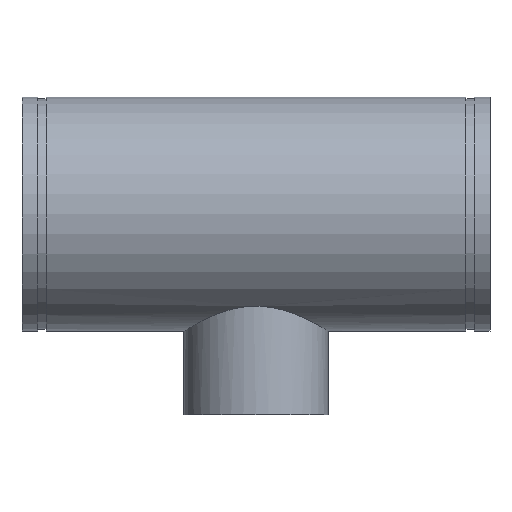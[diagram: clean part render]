
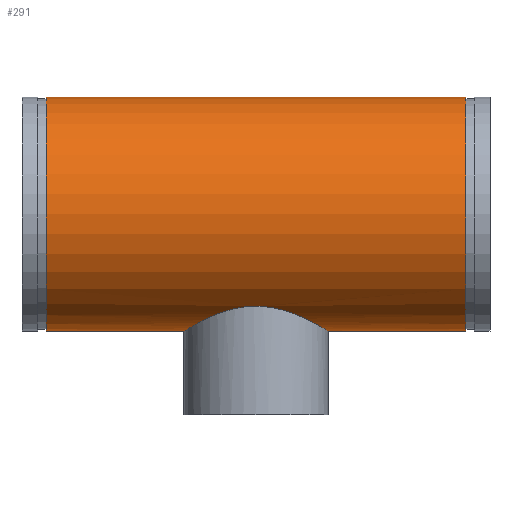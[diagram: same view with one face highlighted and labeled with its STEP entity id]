
A CAD part, top view. The second image highlights one B-rep face of the part: STEP entity #291.
In plain terms, the highlighted cylindrical face has radius 177.8 mm (diameter 355.6 mm), a full revolution.
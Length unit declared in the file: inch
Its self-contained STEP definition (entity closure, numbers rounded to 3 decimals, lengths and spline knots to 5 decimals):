
#45=B_SPLINE_CURVE_WITH_KNOTS('',3,(#511,#512,#513,#514,#515,#516,#517,
#518,#519,#520,#521,#522,#523,#524,#525,#526,#527,#528,#529,#530,#531,#532,
#533,#534,#535,#536,#537,#538,#539,#540,#541,#542,#543,#544,#545,#546,#547,
#548,#549,#550,#551,#552,#553,#554,#555,#556,#557,#558,#559,#560),
 .UNSPECIFIED.,.F.,.F.,(4,2,2,2,2,2,2,2,2,2,2,2,2,2,2,2,2,2,2,2,2,2,2,2,
4),(0.,2.14074,4.28148,6.42221,8.56295,
10.68795,12.81294,14.93794,17.06294,19.18793,
21.31293,23.43792,25.56292,27.70366,29.84439,
31.98513,34.12587,36.26661,38.40735,40.54808,
42.68882,44.81382,46.93881,49.06381,51.18881),
 .UNSPECIFIED.);
#46=B_SPLINE_CURVE_WITH_KNOTS('',3,(#561,#562,#563,#564,#565,#566,#567,
#568,#569,#570,#571,#572,#573,#574,#575,#576,#577,#578),.UNSPECIFIED.,.F.,
 .F.,(4,2,2,2,2,2,2,2,4),(51.18881,53.3138,55.4388,
57.56379,59.68879,61.82953,63.97026,66.111,
68.25174),.UNSPECIFIED.);
#51=LINE('',#508,#59);
#59=VECTOR('',#410,7.);
#67=CYLINDRICAL_SURFACE('',#338,7.);
#77=FACE_BOUND('',#108,.T.);
#88=FACE_OUTER_BOUND('',#107,.T.);
#107=EDGE_LOOP('',(#221,#222,#223,#224));
#108=EDGE_LOOP('',(#225,#226));
#121=CIRCLE('',#321,7.);
#132=CIRCLE('',#337,7.);
#141=VERTEX_POINT('',#476);
#152=VERTEX_POINT('',#505);
#153=VERTEX_POINT('',#509);
#154=VERTEX_POINT('',#510);
#165=EDGE_CURVE('',#141,#141,#121,.T.);
#178=EDGE_CURVE('',#152,#152,#132,.T.);
#179=EDGE_CURVE('',#152,#141,#51,.T.);
#180=EDGE_CURVE('',#153,#154,#45,.T.);
#181=EDGE_CURVE('',#154,#153,#46,.T.);
#221=ORIENTED_EDGE('',*,*,#178,.T.);
#222=ORIENTED_EDGE('',*,*,#179,.T.);
#223=ORIENTED_EDGE('',*,*,#165,.T.);
#224=ORIENTED_EDGE('',*,*,#179,.F.);
#225=ORIENTED_EDGE('',*,*,#180,.F.);
#226=ORIENTED_EDGE('',*,*,#181,.F.);
#291=ADVANCED_FACE('',(#88,#77),#67,.T.);
#321=AXIS2_PLACEMENT_3D('',#477,#372,#373);
#337=AXIS2_PLACEMENT_3D('',#506,#406,#407);
#338=AXIS2_PLACEMENT_3D('',#507,#408,#409);
#372=DIRECTION('center_axis',(-1.,0.,0.));
#373=DIRECTION('ref_axis',(0.,-1.,0.));
#406=DIRECTION('center_axis',(1.,0.,0.));
#407=DIRECTION('ref_axis',(0.,-1.,0.));
#408=DIRECTION('center_axis',(-1.,0.,0.));
#409=DIRECTION('ref_axis',(0.,-1.,0.));
#410=DIRECTION('',(1.,0.,0.));
#476=CARTESIAN_POINT('',(12.562,7.,0.));
#477=CARTESIAN_POINT('Origin',(12.562,0.,0.));
#505=CARTESIAN_POINT('',(-12.562,7.,0.));
#506=CARTESIAN_POINT('Origin',(-12.562,0.,0.));
#507=CARTESIAN_POINT('Origin',(14.,0.,0.));
#508=CARTESIAN_POINT('',(14.,7.,0.));
#509=CARTESIAN_POINT('',(0.,-5.51383,-4.3125));
#510=CARTESIAN_POINT('',(-4.3125,-7.,0.));
#511=CARTESIAN_POINT('Ctrl Pts',(0.,-5.51383,
-4.3125));
#512=CARTESIAN_POINT('Ctrl Pts',(0.28094,-5.51383,-4.3125));
#513=CARTESIAN_POINT('Ctrl Pts',(0.56753,-5.53596,-4.28465));
#514=CARTESIAN_POINT('Ctrl Pts',(1.13119,-5.62177,-4.17141));
#515=CARTESIAN_POINT('Ctrl Pts',(1.40829,-5.68524,-4.0861));
#516=CARTESIAN_POINT('Ctrl Pts',(1.93568,-5.83828,-3.86428));
#517=CARTESIAN_POINT('Ctrl Pts',(2.18652,-5.92776,-3.72759));
#518=CARTESIAN_POINT('Ctrl Pts',(2.6494,-6.11365,-3.41416));
#519=CARTESIAN_POINT('Ctrl Pts',(2.86145,-6.20993,-3.23735));
#520=CARTESIAN_POINT('Ctrl Pts',(3.23597,-6.39118,-2.86283));
#521=CARTESIAN_POINT('Ctrl Pts',(3.41254,-6.48309,-2.6515));
#522=CARTESIAN_POINT('Ctrl Pts',(3.72647,-6.65369,-2.18845));
#523=CARTESIAN_POINT('Ctrl Pts',(3.86384,-6.73227,-1.93671));
#524=CARTESIAN_POINT('Ctrl Pts',(4.08652,-6.86249,-1.4073));
#525=CARTESIAN_POINT('Ctrl Pts',(4.172,-6.91418,-1.12909));
#526=CARTESIAN_POINT('Ctrl Pts',(4.28501,-6.98296,-0.56488));
#527=CARTESIAN_POINT('Ctrl Pts',(4.3125,-7.,-0.27887));
#528=CARTESIAN_POINT('Ctrl Pts',(4.3125,-7.,0.27887));
#529=CARTESIAN_POINT('Ctrl Pts',(4.28501,-6.98296,0.56488));
#530=CARTESIAN_POINT('Ctrl Pts',(4.172,-6.91418,1.12909));
#531=CARTESIAN_POINT('Ctrl Pts',(4.08652,-6.86249,1.4073));
#532=CARTESIAN_POINT('Ctrl Pts',(3.86384,-6.73227,1.93671));
#533=CARTESIAN_POINT('Ctrl Pts',(3.72647,-6.65369,2.18845));
#534=CARTESIAN_POINT('Ctrl Pts',(3.41254,-6.48309,2.6515));
#535=CARTESIAN_POINT('Ctrl Pts',(3.23597,-6.39118,2.86283));
#536=CARTESIAN_POINT('Ctrl Pts',(2.86145,-6.20993,3.23735));
#537=CARTESIAN_POINT('Ctrl Pts',(2.6494,-6.11365,3.41416));
#538=CARTESIAN_POINT('Ctrl Pts',(2.18652,-5.92776,3.72759));
#539=CARTESIAN_POINT('Ctrl Pts',(1.93568,-5.83828,3.86428));
#540=CARTESIAN_POINT('Ctrl Pts',(1.40829,-5.68524,4.0861));
#541=CARTESIAN_POINT('Ctrl Pts',(1.13119,-5.62177,4.17141));
#542=CARTESIAN_POINT('Ctrl Pts',(0.56753,-5.53596,4.28465));
#543=CARTESIAN_POINT('Ctrl Pts',(0.28094,-5.51383,4.3125));
#544=CARTESIAN_POINT('Ctrl Pts',(-0.28094,-5.51383,4.3125));
#545=CARTESIAN_POINT('Ctrl Pts',(-0.56753,-5.53596,4.28465));
#546=CARTESIAN_POINT('Ctrl Pts',(-1.13119,-5.62177,4.17141));
#547=CARTESIAN_POINT('Ctrl Pts',(-1.40829,-5.68524,4.0861));
#548=CARTESIAN_POINT('Ctrl Pts',(-1.93568,-5.83828,3.86428));
#549=CARTESIAN_POINT('Ctrl Pts',(-2.18652,-5.92776,3.72759));
#550=CARTESIAN_POINT('Ctrl Pts',(-2.6494,-6.11365,3.41416));
#551=CARTESIAN_POINT('Ctrl Pts',(-2.86145,-6.20993,3.23735));
#552=CARTESIAN_POINT('Ctrl Pts',(-3.23597,-6.39118,2.86283));
#553=CARTESIAN_POINT('Ctrl Pts',(-3.41254,-6.48309,2.6515));
#554=CARTESIAN_POINT('Ctrl Pts',(-3.72647,-6.65369,2.18845));
#555=CARTESIAN_POINT('Ctrl Pts',(-3.86384,-6.73227,1.93671));
#556=CARTESIAN_POINT('Ctrl Pts',(-4.08652,-6.86249,1.4073));
#557=CARTESIAN_POINT('Ctrl Pts',(-4.172,-6.91418,1.12909));
#558=CARTESIAN_POINT('Ctrl Pts',(-4.28501,-6.98296,0.56488));
#559=CARTESIAN_POINT('Ctrl Pts',(-4.3125,-7.,0.27887));
#560=CARTESIAN_POINT('Ctrl Pts',(-4.3125,-7.,0.));
#561=CARTESIAN_POINT('Ctrl Pts',(-4.3125,-7.,0.));
#562=CARTESIAN_POINT('Ctrl Pts',(-4.3125,-7.,-0.27887));
#563=CARTESIAN_POINT('Ctrl Pts',(-4.28501,-6.98296,-0.56488));
#564=CARTESIAN_POINT('Ctrl Pts',(-4.172,-6.91418,-1.12909));
#565=CARTESIAN_POINT('Ctrl Pts',(-4.08652,-6.86249,-1.4073));
#566=CARTESIAN_POINT('Ctrl Pts',(-3.86384,-6.73227,-1.93671));
#567=CARTESIAN_POINT('Ctrl Pts',(-3.72647,-6.65369,-2.18845));
#568=CARTESIAN_POINT('Ctrl Pts',(-3.41254,-6.48309,-2.6515));
#569=CARTESIAN_POINT('Ctrl Pts',(-3.23597,-6.39118,-2.86283));
#570=CARTESIAN_POINT('Ctrl Pts',(-2.86145,-6.20993,-3.23735));
#571=CARTESIAN_POINT('Ctrl Pts',(-2.6494,-6.11365,-3.41416));
#572=CARTESIAN_POINT('Ctrl Pts',(-2.18652,-5.92776,-3.72759));
#573=CARTESIAN_POINT('Ctrl Pts',(-1.93568,-5.83828,-3.86428));
#574=CARTESIAN_POINT('Ctrl Pts',(-1.40829,-5.68524,-4.0861));
#575=CARTESIAN_POINT('Ctrl Pts',(-1.13119,-5.62177,-4.17141));
#576=CARTESIAN_POINT('Ctrl Pts',(-0.56753,-5.53596,-4.28465));
#577=CARTESIAN_POINT('Ctrl Pts',(-0.28094,-5.51383,-4.3125));
#578=CARTESIAN_POINT('Ctrl Pts',(0.,-5.51383,-4.3125));
